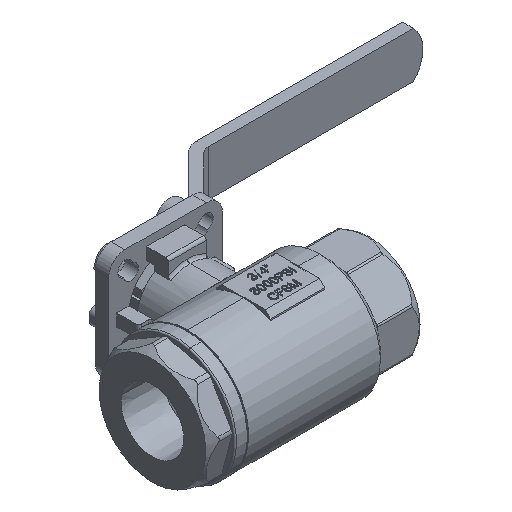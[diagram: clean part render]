
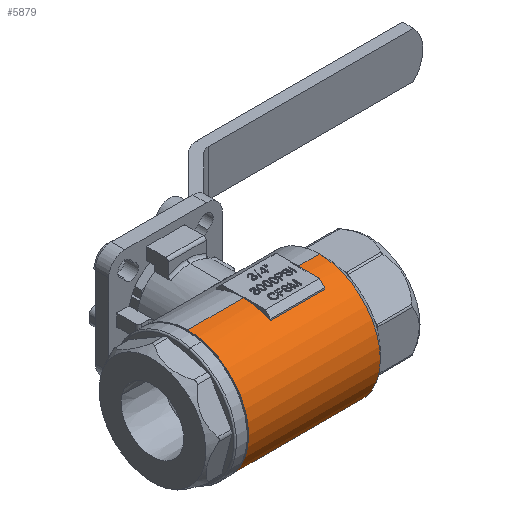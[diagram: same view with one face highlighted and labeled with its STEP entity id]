
A CAD part, isometric view. The second image highlights one B-rep face of the part: STEP entity #5879.
In plain terms, the highlighted cylindrical face has radius 22.5 mm (diameter 45 mm), a partial arc.
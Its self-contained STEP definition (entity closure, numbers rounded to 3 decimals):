
#208 = DIRECTION ( 'NONE',  ( -1., 0., 0. ) ) ;
#318 = EDGE_CURVE ( 'NONE', #32890, #22220, #12986, .T. ) ;
#376 = VECTOR ( 'NONE', #28425, 1000. ) ;
#558 = CARTESIAN_POINT ( 'NONE',  ( 14.115, -13.433, -22.5 ) ) ;
#782 = LINE ( 'NONE', #15112, #6993 ) ;
#1142 = CIRCLE ( 'NONE', #11217, 22.5 ) ;
#1250 = EDGE_CURVE ( 'NONE', #31225, #22220, #12133, .T. ) ;
#1369 = ORIENTED_EDGE ( 'NONE', *, *, #318, .F. ) ;
#1678 = CYLINDRICAL_SURFACE ( 'NONE', #16474, 22.5 ) ;
#1681 = CARTESIAN_POINT ( 'NONE',  ( 14.115, -13.433, 22.5 ) ) ;
#1726 = VERTEX_POINT ( 'NONE', #1681 ) ;
#3023 = CARTESIAN_POINT ( 'NONE',  ( -56.054, -13.433, 22.5 ) ) ;
#3790 = AXIS2_PLACEMENT_3D ( 'NONE', #7657, #10238, #10826 ) ;
#4696 = CARTESIAN_POINT ( 'NONE',  ( 6.115, -23.433, 20.156 ) ) ;
#4876 = ORIENTED_EDGE ( 'NONE', *, *, #13785, .F. ) ;
#5026 = CARTESIAN_POINT ( 'NONE',  ( -56.054, -13.433, 22.5 ) ) ;
#5361 = CIRCLE ( 'NONE', #19393, 22.5 ) ;
#5676 = CARTESIAN_POINT ( 'NONE',  ( 6.115, -13.433, 22.5 ) ) ;
#5879 = ADVANCED_FACE ( 'NONE', ( #9542 ), #1678, .T. ) ;
#6226 = EDGE_CURVE ( 'NONE', #1726, #7593, #30162, .T. ) ;
#6993 = VECTOR ( 'NONE', #20416, 1000. ) ;
#7294 = EDGE_LOOP ( 'NONE', ( #10257, #26001, #20271, #26385, #4876, #25813, #22140, #1369 ) ) ;
#7593 = VERTEX_POINT ( 'NONE', #5676 ) ;
#7623 = CARTESIAN_POINT ( 'NONE',  ( -13.885, -13.433, 22.5 ) ) ;
#7657 = CARTESIAN_POINT ( 'NONE',  ( -34.485, -13.433, 0. ) ) ;
#8250 = LINE ( 'NONE', #20451, #376 ) ;
#9542 = FACE_OUTER_BOUND ( 'NONE', #7294, .T. ) ;
#9920 = VECTOR ( 'NONE', #208, 1000. ) ;
#9995 = CARTESIAN_POINT ( 'NONE',  ( 14.115, -13.433, 0. ) ) ;
#10238 = DIRECTION ( 'NONE',  ( -1., 0., 0. ) ) ;
#10257 = ORIENTED_EDGE ( 'NONE', *, *, #14075, .F. ) ;
#10826 = DIRECTION ( 'NONE',  ( 0., 0., 1. ) ) ;
#11217 = AXIS2_PLACEMENT_3D ( 'NONE', #9995, #28484, #12647 ) ;
#11442 = CIRCLE ( 'NONE', #29201, 22.5 ) ;
#11925 = DIRECTION ( 'NONE',  ( -1., 0., 0. ) ) ;
#12133 = LINE ( 'NONE', #5026, #17518 ) ;
#12647 = DIRECTION ( 'NONE',  ( 0., 0., 1. ) ) ;
#12986 = CIRCLE ( 'NONE', #3790, 22.5 ) ;
#13440 = VERTEX_POINT ( 'NONE', #4696 ) ;
#13445 = DIRECTION ( 'NONE',  ( -1., 0., 0. ) ) ;
#13700 = EDGE_CURVE ( 'NONE', #13440, #7593, #5361, .T. ) ;
#13785 = EDGE_CURVE ( 'NONE', #27177, #13440, #8250, .T. ) ;
#14075 = EDGE_CURVE ( 'NONE', #33470, #32890, #782, .T. ) ;
#15112 = CARTESIAN_POINT ( 'NONE',  ( -56.054, -13.433, -22.5 ) ) ;
#15427 = DIRECTION ( 'NONE',  ( 1., 0., 0. ) ) ;
#16113 = CARTESIAN_POINT ( 'NONE',  ( -56.054, -13.433, 0. ) ) ;
#16474 = AXIS2_PLACEMENT_3D ( 'NONE', #16113, #13445, #31997 ) ;
#16937 = CARTESIAN_POINT ( 'NONE',  ( -34.485, -13.433, 22.5 ) ) ;
#17518 = VECTOR ( 'NONE', #34065, 1000. ) ;
#18573 = CARTESIAN_POINT ( 'NONE',  ( -34.485, -13.433, -22.5 ) ) ;
#19393 = AXIS2_PLACEMENT_3D ( 'NONE', #27753, #11925, #30383 ) ;
#20271 = ORIENTED_EDGE ( 'NONE', *, *, #6226, .T. ) ;
#20416 = DIRECTION ( 'NONE',  ( -1., 0., 0. ) ) ;
#20451 = CARTESIAN_POINT ( 'NONE',  ( -56.054, -23.433, 20.156 ) ) ;
#20810 = EDGE_CURVE ( 'NONE', #31225, #27177, #11442, .T. ) ;
#22140 = ORIENTED_EDGE ( 'NONE', *, *, #1250, .T. ) ;
#22220 = VERTEX_POINT ( 'NONE', #16937 ) ;
#24997 = CARTESIAN_POINT ( 'NONE',  ( -13.885, -23.433, 20.156 ) ) ;
#25813 = ORIENTED_EDGE ( 'NONE', *, *, #20810, .F. ) ;
#26001 = ORIENTED_EDGE ( 'NONE', *, *, #29589, .T. ) ;
#26385 = ORIENTED_EDGE ( 'NONE', *, *, #13700, .F. ) ;
#27177 = VERTEX_POINT ( 'NONE', #24997 ) ;
#27753 = CARTESIAN_POINT ( 'NONE',  ( 6.115, -13.433, 0. ) ) ;
#28425 = DIRECTION ( 'NONE',  ( 1., 0., 0. ) ) ;
#28484 = DIRECTION ( 'NONE',  ( -1., 0., 0. ) ) ;
#29201 = AXIS2_PLACEMENT_3D ( 'NONE', #31224, #15427, #33839 ) ;
#29589 = EDGE_CURVE ( 'NONE', #33470, #1726, #1142, .T. ) ;
#30162 = LINE ( 'NONE', #3023, #9920 ) ;
#30383 = DIRECTION ( 'NONE',  ( 0., 0., 1. ) ) ;
#31224 = CARTESIAN_POINT ( 'NONE',  ( -13.885, -13.433, 0. ) ) ;
#31225 = VERTEX_POINT ( 'NONE', #7623 ) ;
#31997 = DIRECTION ( 'NONE',  ( 0., 0., 1. ) ) ;
#32890 = VERTEX_POINT ( 'NONE', #18573 ) ;
#33470 = VERTEX_POINT ( 'NONE', #558 ) ;
#33839 = DIRECTION ( 'NONE',  ( 0., 0., -1. ) ) ;
#34065 = DIRECTION ( 'NONE',  ( -1., 0., 0. ) ) ;
